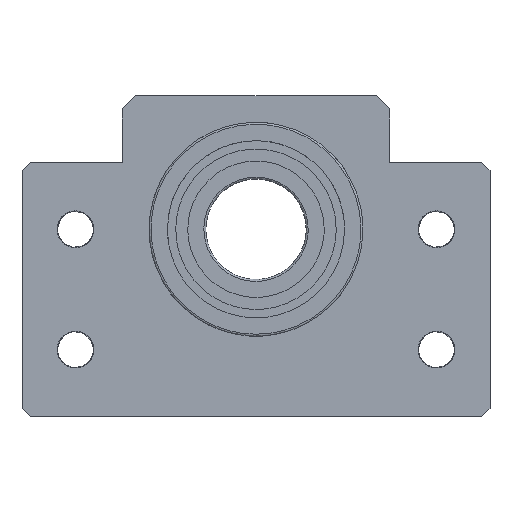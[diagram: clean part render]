
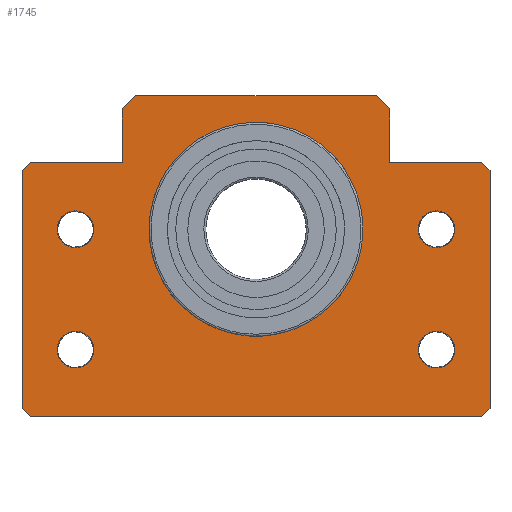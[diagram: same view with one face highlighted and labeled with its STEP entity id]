
A CAD part, front view. The second image highlights one B-rep face of the part: STEP entity #1745.
In plain terms, the highlighted free-form (B-spline) face has degree [1, 1] with [2, 2] control points.
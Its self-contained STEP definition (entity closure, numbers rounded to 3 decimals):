
#1022=CARTESIAN_POINT('',(35.,-26.8,0.));
#1023=VERTEX_POINT('',#1022);
#1024=CARTESIAN_POINT('',(33.8,-28.,0.));
#1025=VERTEX_POINT('',#1024);
#1026=CARTESIAN_POINT('',(35.,-26.8,0.));
#1027=CARTESIAN_POINT('',(33.8,-28.,0.));
#1028=B_SPLINE_CURVE_WITH_KNOTS('',1,(#1026,#1027),.POLYLINE_FORM.,.F.,.U.,(2,2),(0.,1.),.UNSPECIFIED.);
#1029=EDGE_CURVE('',#1023,#1025,#1028,.T.);
#1058=CARTESIAN_POINT('',(35.,8.8,0.));
#1059=VERTEX_POINT('',#1058);
#1060=CARTESIAN_POINT('',(35.,8.8,0.));
#1061=CARTESIAN_POINT('',(35.,-26.8,0.));
#1062=B_SPLINE_CURVE_WITH_KNOTS('',1,(#1060,#1061),.POLYLINE_FORM.,.F.,.U.,(2,2),(0.,1.),.UNSPECIFIED.);
#1063=EDGE_CURVE('',#1059,#1023,#1062,.T.);
#1086=CARTESIAN_POINT('',(-33.8,-28.,0.));
#1087=VERTEX_POINT('',#1086);
#1088=CARTESIAN_POINT('',(33.8,-28.,0.));
#1089=CARTESIAN_POINT('',(-33.8,-28.,0.));
#1090=B_SPLINE_CURVE_WITH_KNOTS('',1,(#1088,#1089),.POLYLINE_FORM.,.F.,.U.,(2,2),(0.,1.),.UNSPECIFIED.);
#1091=EDGE_CURVE('',#1025,#1087,#1090,.T.);
#1146=CARTESIAN_POINT('',(-35.,-26.8,0.));
#1147=VERTEX_POINT('',#1146);
#1148=CARTESIAN_POINT('',(-35.,8.8,0.));
#1149=VERTEX_POINT('',#1148);
#1150=CARTESIAN_POINT('',(-35.,-26.8,0.));
#1151=CARTESIAN_POINT('',(-35.,8.8,0.));
#1152=B_SPLINE_CURVE_WITH_KNOTS('',1,(#1150,#1151),.POLYLINE_FORM.,.F.,.U.,(2,2),(0.,1.),.UNSPECIFIED.);
#1153=EDGE_CURVE('',#1147,#1149,#1152,.T.);
#1182=CARTESIAN_POINT('',(-33.8,-28.,0.));
#1183=CARTESIAN_POINT('',(-35.,-26.8,0.));
#1184=B_SPLINE_CURVE_WITH_KNOTS('',1,(#1182,#1183),.POLYLINE_FORM.,.F.,.U.,(2,2),(0.,1.),.UNSPECIFIED.);
#1185=EDGE_CURVE('',#1087,#1147,#1184,.T.);
#1202=CARTESIAN_POINT('',(33.8,10.,0.));
#1203=VERTEX_POINT('',#1202);
#1204=CARTESIAN_POINT('',(33.8,10.,0.));
#1205=CARTESIAN_POINT('',(35.,8.8,0.));
#1206=B_SPLINE_CURVE_WITH_KNOTS('',1,(#1204,#1205),.POLYLINE_FORM.,.F.,.U.,(2,2),(0.,1.),.UNSPECIFIED.);
#1207=EDGE_CURVE('',#1203,#1059,#1206,.T.);
#1230=CARTESIAN_POINT('',(20.,10.,0.));
#1231=VERTEX_POINT('',#1230);
#1232=CARTESIAN_POINT('',(20.,10.,0.));
#1233=CARTESIAN_POINT('',(33.8,10.,0.));
#1234=B_SPLINE_CURVE_WITH_KNOTS('',1,(#1232,#1233),.POLYLINE_FORM.,.F.,.U.,(2,2),(0.,1.),.UNSPECIFIED.);
#1235=EDGE_CURVE('',#1231,#1203,#1234,.T.);
#1274=CARTESIAN_POINT('',(20.,18.,0.));
#1275=VERTEX_POINT('',#1274);
#1276=CARTESIAN_POINT('',(20.,18.,0.));
#1277=CARTESIAN_POINT('',(20.,10.,0.));
#1278=B_SPLINE_CURVE_WITH_KNOTS('',1,(#1276,#1277),.POLYLINE_FORM.,.F.,.U.,(2,2),(0.,1.),.UNSPECIFIED.);
#1279=EDGE_CURVE('',#1275,#1231,#1278,.T.);
#1302=CARTESIAN_POINT('',(18.,20.,0.));
#1303=VERTEX_POINT('',#1302);
#1304=CARTESIAN_POINT('',(18.,20.,0.));
#1305=CARTESIAN_POINT('',(20.,18.,0.));
#1306=B_SPLINE_CURVE_WITH_KNOTS('',1,(#1304,#1305),.POLYLINE_FORM.,.F.,.U.,(2,2),(0.,1.),.UNSPECIFIED.);
#1307=EDGE_CURVE('',#1303,#1275,#1306,.T.);
#1330=CARTESIAN_POINT('',(-18.,20.,0.));
#1331=VERTEX_POINT('',#1330);
#1332=CARTESIAN_POINT('',(-18.,20.,0.));
#1333=CARTESIAN_POINT('',(18.,20.,0.));
#1334=B_SPLINE_CURVE_WITH_KNOTS('',1,(#1332,#1333),.POLYLINE_FORM.,.F.,.U.,(2,2),(0.,1.),.UNSPECIFIED.);
#1335=EDGE_CURVE('',#1331,#1303,#1334,.T.);
#1358=CARTESIAN_POINT('',(-20.,18.,0.));
#1359=VERTEX_POINT('',#1358);
#1360=CARTESIAN_POINT('',(-20.,18.,0.));
#1361=CARTESIAN_POINT('',(-18.,20.,0.));
#1362=B_SPLINE_CURVE_WITH_KNOTS('',1,(#1360,#1361),.POLYLINE_FORM.,.F.,.U.,(2,2),(0.,1.),.UNSPECIFIED.);
#1363=EDGE_CURVE('',#1359,#1331,#1362,.T.);
#1386=CARTESIAN_POINT('',(-20.,10.,0.));
#1387=VERTEX_POINT('',#1386);
#1388=CARTESIAN_POINT('',(-20.,10.,0.));
#1389=CARTESIAN_POINT('',(-20.,18.,0.));
#1390=B_SPLINE_CURVE_WITH_KNOTS('',1,(#1388,#1389),.POLYLINE_FORM.,.F.,.U.,(2,2),(0.,1.),.UNSPECIFIED.);
#1391=EDGE_CURVE('',#1387,#1359,#1390,.T.);
#1414=CARTESIAN_POINT('',(-33.8,10.,0.));
#1415=VERTEX_POINT('',#1414);
#1416=CARTESIAN_POINT('',(-33.8,10.,0.));
#1417=CARTESIAN_POINT('',(-20.,10.,0.));
#1418=B_SPLINE_CURVE_WITH_KNOTS('',1,(#1416,#1417),.POLYLINE_FORM.,.F.,.U.,(2,2),(0.,1.),.UNSPECIFIED.);
#1419=EDGE_CURVE('',#1415,#1387,#1418,.T.);
#1458=CARTESIAN_POINT('',(-35.,8.8,0.));
#1459=CARTESIAN_POINT('',(-33.8,10.,0.));
#1460=B_SPLINE_CURVE_WITH_KNOTS('',1,(#1458,#1459),.POLYLINE_FORM.,.F.,.U.,(2,2),(0.,1.),.UNSPECIFIED.);
#1461=EDGE_CURVE('',#1149,#1415,#1460,.T.);
#1642=CARTESIAN_POINT('',(16.,0.,0.));
#1643=VERTEX_POINT('',#1642);
#1649=CARTESIAN_POINT('',(16.,0.,0.));
#1650=CARTESIAN_POINT('',(16.,-16.,0.));
#1651=CARTESIAN_POINT('',(0.,-16.,0.));
#1652=CARTESIAN_POINT('',(-16.,-16.,0.));
#1653=CARTESIAN_POINT('',(-16.,0.,0.));
#1654=CARTESIAN_POINT('',(-16.,16.,0.));
#1655=CARTESIAN_POINT('',(0.,16.,0.));
#1656=CARTESIAN_POINT('',(16.,16.,0.));
#1657=CARTESIAN_POINT('',(16.,0.,0.));
#1658=(BOUNDED_CURVE()B_SPLINE_CURVE(2,(#1649,#1650,#1651,#1652,#1653,#1654,#1655,#1656,#1657),.UNSPECIFIED.,.T.,.U.)B_SPLINE_CURVE_WITH_KNOTS((3,2,2,2,3),(0.,0.25,0.5,0.75,1.),.UNSPECIFIED.)CURVE()GEOMETRIC_REPRESENTATION_ITEM()RATIONAL_B_SPLINE_CURVE((1.,0.707,1.,0.707,1.,0.707,1.,0.707,1.))REPRESENTATION_ITEM(''));
#1659=EDGE_CURVE('',#1643,#1643,#1658,.T.);
#1665=CARTESIAN_POINT('',(-88.876,-88.876,0.));
#1666=CARTESIAN_POINT('',(-88.876,88.876,0.));
#1667=CARTESIAN_POINT('',(88.876,-88.876,0.));
#1668=CARTESIAN_POINT('',(88.876,88.876,0.));
#1669=B_SPLINE_SURFACE_WITH_KNOTS('',1,1,((#1665,#1666),(#1667,#1668)),.PLANE_SURF.,.F.,.F.,.U.,(2,2),(2,2),(0.,1.),(0.,1.),.UNSPECIFIED.);
#1670=ORIENTED_EDGE('',*,*,#1153,.F.);
#1671=ORIENTED_EDGE('',*,*,#1185,.F.);
#1672=ORIENTED_EDGE('',*,*,#1091,.F.);
#1673=ORIENTED_EDGE('',*,*,#1029,.F.);
#1674=ORIENTED_EDGE('',*,*,#1063,.F.);
#1675=ORIENTED_EDGE('',*,*,#1207,.F.);
#1676=ORIENTED_EDGE('',*,*,#1235,.F.);
#1677=ORIENTED_EDGE('',*,*,#1279,.F.);
#1678=ORIENTED_EDGE('',*,*,#1307,.F.);
#1679=ORIENTED_EDGE('',*,*,#1335,.F.);
#1680=ORIENTED_EDGE('',*,*,#1363,.F.);
#1681=ORIENTED_EDGE('',*,*,#1391,.F.);
#1682=ORIENTED_EDGE('',*,*,#1419,.F.);
#1683=ORIENTED_EDGE('',*,*,#1461,.F.);
#1684=EDGE_LOOP('',(#1670,#1671,#1672,#1673,#1674,#1675,#1676,#1677,#1678,#1679,#1680,#1681,#1682,#1683));
#1685=FACE_OUTER_BOUND('',#1684,.T.);
#1686=ORIENTED_EDGE('',*,*,#1659,.T.);
#1687=EDGE_LOOP('',(#1686));
#1688=FACE_BOUND('',#1687,.T.);
#1689=CARTESIAN_POINT('',(-24.25,0.,0.));
#1690=VERTEX_POINT('',#1689);
#1691=CARTESIAN_POINT('',(-24.25,0.,0.));
#1692=CARTESIAN_POINT('',(-24.25,4.763,0.));
#1693=CARTESIAN_POINT('',(-28.375,2.382,0.));
#1694=CARTESIAN_POINT('',(-32.5,0.,0.));
#1695=CARTESIAN_POINT('',(-28.375,-2.382,0.));
#1696=CARTESIAN_POINT('',(-24.25,-4.763,0.));
#1697=CARTESIAN_POINT('',(-24.25,0.,0.));
#1698=(BOUNDED_CURVE()B_SPLINE_CURVE(2,(#1691,#1692,#1693,#1694,#1695,#1696,#1697),.CIRCULAR_ARC.,.T.,.U.)B_SPLINE_CURVE_WITH_KNOTS((3,2,2,3),(0.,0.333,0.667,1.),.UNSPECIFIED.)CURVE()GEOMETRIC_REPRESENTATION_ITEM()RATIONAL_B_SPLINE_CURVE((1.,0.5,1.,0.5,1.,0.5,1.))REPRESENTATION_ITEM(''));
#1699=EDGE_CURVE('',#1690,#1690,#1698,.T.);
#1700=ORIENTED_EDGE('',*,*,#1699,.F.);
#1701=EDGE_LOOP('',(#1700));
#1702=FACE_BOUND('',#1701,.T.);
#1703=CARTESIAN_POINT('',(-24.25,-18.,0.));
#1704=VERTEX_POINT('',#1703);
#1705=CARTESIAN_POINT('',(-24.25,-18.,0.));
#1706=CARTESIAN_POINT('',(-24.25,-13.237,0.));
#1707=CARTESIAN_POINT('',(-28.375,-15.618,0.));
#1708=CARTESIAN_POINT('',(-32.5,-18.,0.));
#1709=CARTESIAN_POINT('',(-28.375,-20.382,0.));
#1710=CARTESIAN_POINT('',(-24.25,-22.763,0.));
#1711=CARTESIAN_POINT('',(-24.25,-18.,0.));
#1712=(BOUNDED_CURVE()B_SPLINE_CURVE(2,(#1705,#1706,#1707,#1708,#1709,#1710,#1711),.CIRCULAR_ARC.,.T.,.U.)B_SPLINE_CURVE_WITH_KNOTS((3,2,2,3),(0.,0.333,0.667,1.),.UNSPECIFIED.)CURVE()GEOMETRIC_REPRESENTATION_ITEM()RATIONAL_B_SPLINE_CURVE((1.,0.5,1.,0.5,1.,0.5,1.))REPRESENTATION_ITEM(''));
#1713=EDGE_CURVE('',#1704,#1704,#1712,.T.);
#1714=ORIENTED_EDGE('',*,*,#1713,.F.);
#1715=EDGE_LOOP('',(#1714));
#1716=FACE_BOUND('',#1715,.T.);
#1717=CARTESIAN_POINT('',(29.75,0.,0.));
#1718=VERTEX_POINT('',#1717);
#1719=CARTESIAN_POINT('',(29.75,0.,0.));
#1720=CARTESIAN_POINT('',(29.75,4.763,0.));
#1721=CARTESIAN_POINT('',(25.625,2.382,0.));
#1722=CARTESIAN_POINT('',(21.5,0.,0.));
#1723=CARTESIAN_POINT('',(25.625,-2.382,0.));
#1724=CARTESIAN_POINT('',(29.75,-4.763,0.));
#1725=CARTESIAN_POINT('',(29.75,0.,0.));
#1726=(BOUNDED_CURVE()B_SPLINE_CURVE(2,(#1719,#1720,#1721,#1722,#1723,#1724,#1725),.CIRCULAR_ARC.,.T.,.U.)B_SPLINE_CURVE_WITH_KNOTS((3,2,2,3),(0.,0.333,0.667,1.),.UNSPECIFIED.)CURVE()GEOMETRIC_REPRESENTATION_ITEM()RATIONAL_B_SPLINE_CURVE((1.,0.5,1.,0.5,1.,0.5,1.))REPRESENTATION_ITEM(''));
#1727=EDGE_CURVE('',#1718,#1718,#1726,.T.);
#1728=ORIENTED_EDGE('',*,*,#1727,.F.);
#1729=EDGE_LOOP('',(#1728));
#1730=FACE_BOUND('',#1729,.T.);
#1731=CARTESIAN_POINT('',(29.75,-18.,0.));
#1732=VERTEX_POINT('',#1731);
#1733=CARTESIAN_POINT('',(29.75,-18.,0.));
#1734=CARTESIAN_POINT('',(29.75,-13.237,0.));
#1735=CARTESIAN_POINT('',(25.625,-15.618,0.));
#1736=CARTESIAN_POINT('',(21.5,-18.,0.));
#1737=CARTESIAN_POINT('',(25.625,-20.382,0.));
#1738=CARTESIAN_POINT('',(29.75,-22.763,0.));
#1739=CARTESIAN_POINT('',(29.75,-18.,0.));
#1740=(BOUNDED_CURVE()B_SPLINE_CURVE(2,(#1733,#1734,#1735,#1736,#1737,#1738,#1739),.CIRCULAR_ARC.,.T.,.U.)B_SPLINE_CURVE_WITH_KNOTS((3,2,2,3),(0.,0.333,0.667,1.),.UNSPECIFIED.)CURVE()GEOMETRIC_REPRESENTATION_ITEM()RATIONAL_B_SPLINE_CURVE((1.,0.5,1.,0.5,1.,0.5,1.))REPRESENTATION_ITEM(''));
#1741=EDGE_CURVE('',#1732,#1732,#1740,.T.);
#1742=ORIENTED_EDGE('',*,*,#1741,.F.);
#1743=EDGE_LOOP('',(#1742));
#1744=FACE_BOUND('',#1743,.T.);
#1745=ADVANCED_FACE('',(#1685,#1688,#1702,#1716,#1730,#1744),#1669,.T.);
